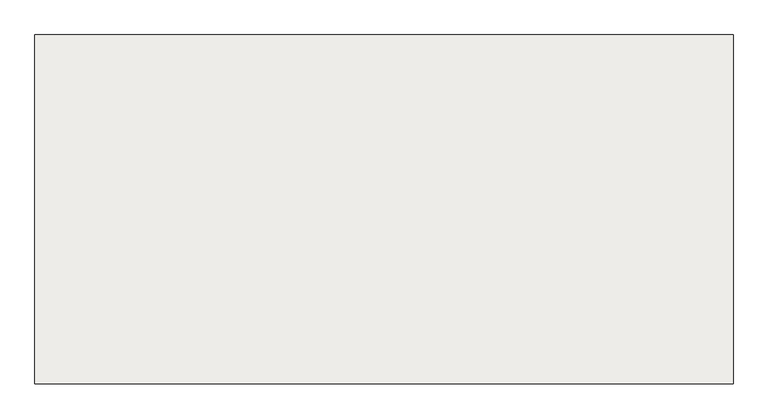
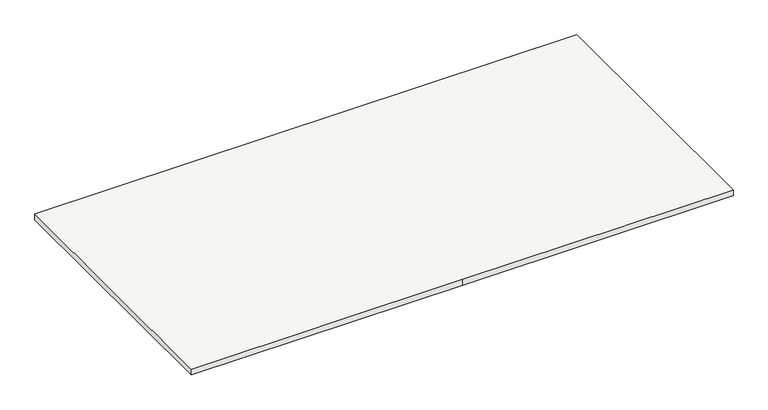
"""IFC4 building model written with IfcOpenShell, lengths in millimetres: slab geometry, Descansillo no monolítico."""

import ifcopenshell
import ifcopenshell.guid

model = None  # the IFC model being written
_history = None  # IfcOwnerHistory: only IFC2X3 demands one
_inside = {}  # id of a spatial element -> (the spatial element, [elements in it])
_under = {}  # id of a project, library or spatial element -> (it, [spatial elements below it])
_declared = {}  # id of a project -> (the project, [libraries it declares])
_typed = {}  # id of a type object -> (the type object, [elements of that type])
_made_of = {}  # id of a material, layer set ... -> (it, [elements and type objects made of it])


def new_model(schema):
    """Start an empty IFC model of exactly this schema.

    Asked for "IFC4X3", IfcOpenShell would pick the latest addendum, in which some entities
    have other attributes; the version numbers below select the first issue.
    IFC2X3 requires an IfcOwnerHistory on every rooted entity: one is made here for all.
    """
    global model, _history
    if schema == "IFC4X3":
        model = ifcopenshell.file(schema_version=(4, 3, 0, 0))
    else:
        model = ifcopenshell.file(schema=schema)
    _inside.clear()
    _under.clear()
    _declared.clear()
    _typed.clear()
    _made_of.clear()
    _history = None
    if model.schema == "IFC2X3":
        org = make("IfcOrganization", Name="unknown")
        user = make(
            "IfcPersonAndOrganization",
            ThePerson=make("IfcPerson", FamilyName="unknown"),
            TheOrganization=org,
        )
        app = make(
            "IfcApplication",
            ApplicationDeveloper=org,
            Version="unknown",
            ApplicationFullName="unknown",
            ApplicationIdentifier="unknown",
        )
        _history = make(
            "IfcOwnerHistory",
            OwningUser=user,
            OwningApplication=app,
            ChangeAction="ADDED",
            CreationDate=0,
        )
    return model


def make(cls, **values):
    """One entity of the class cls with the attributes given. An attribute that is None is left unset."""
    return model.create_entity(
        cls, **{name: value for name, value in values.items() if value is not None}
    )


def rooted(cls, **values):
    """An entity with a GlobalId (a new one), such as an element, a storey or a relation."""
    return make(cls, GlobalId=ifcopenshell.guid.new(), OwnerHistory=_history, **values)


def si_unit(unit_type, name, prefix=None):
    """IfcSIUnit, for example si_unit("LENGTHUNIT", "METRE", prefix="MILLI")."""
    return make("IfcSIUnit", UnitType=unit_type, Prefix=prefix, Name=name)


def assignment(units):
    """IfcUnitAssignment: the units of a project."""
    return None if units is None else make("IfcUnitAssignment", Units=units)


def point(xyz):
    """IfcCartesianPoint."""
    return None if xyz is None else make("IfcCartesianPoint", Coordinates=xyz)


def direction(xyz):
    """IfcDirection."""
    return None if xyz is None else make("IfcDirection", DirectionRatios=xyz)


def frame(location, z_axis=None, x_axis=None):
    """IfcAxis2Placement3D, a coordinate frame: its origin and axes. An axis left out is left unset."""
    return make(
        "IfcAxis2Placement3D",
        Location=point(location),
        Axis=direction(z_axis),
        RefDirection=direction(x_axis),
    )


def origin():
    """The frame at (0, 0, 0) with its axes left unset."""
    return frame((0.0, 0.0, 0.0))


def place(relative_to, where):
    """IfcLocalPlacement: puts the frame where relative to a parent placement (None: the world)."""
    return make(
        "IfcLocalPlacement", PlacementRelTo=relative_to, RelativePlacement=where
    )


def context(
    kind, dimensions, precision=None, world=None, true_north=None, identifier=None
):
    """IfcGeometricRepresentationContext, for example the 3D "Model" context."""
    return make(
        "IfcGeometricRepresentationContext",
        ContextIdentifier=identifier,
        ContextType=kind,
        CoordinateSpaceDimension=dimensions,
        Precision=precision,
        WorldCoordinateSystem=world,
        TrueNorth=true_north,
    )


def project(units=None, contexts=None):
    """IfcProject with its units and contexts."""
    return rooted(
        "IfcProject",
        Name="project",
        RepresentationContexts=contexts,
        UnitsInContext=assignment(units),
    )


def spatial(cls, under=None, at=None, **own):
    """A site, building, storey or space (cls), placed at a placement, below another one or the project."""
    s = rooted(cls, ObjectPlacement=at, **own)
    if under is not None:
        _under.setdefault(under.id(), (under, []))[1].append(s)
    return s


def polyline(points):
    """IfcPolyline through the points."""
    return make("IfcPolyline", Points=[point(p) for p in points])


def outline(outer, holes=None, kind="AREA"):
    """IfcArbitraryClosedProfileDef: a profile drawn as a closed curve; with holes, ...WithVoids."""
    if holes is None:
        return make("IfcArbitraryClosedProfileDef", ProfileType=kind, OuterCurve=outer)
    return make(
        "IfcArbitraryProfileDefWithVoids",
        ProfileType=kind,
        OuterCurve=outer,
        InnerCurves=holes,
    )


def extrude(swept, where, along, depth):
    """IfcExtrudedAreaSolid: the profile swept, set in the frame where, extruded along a direction by depth."""
    return make(
        "IfcExtrudedAreaSolid",
        SweptArea=swept,
        Position=where,
        ExtrudedDirection=direction(along),
        Depth=depth,
    )


def shape(context_of_items, identifier, shape_type, items):
    """IfcShapeRepresentation: the items that make up one representation, for example the "Body"."""
    return make(
        "IfcShapeRepresentation",
        ContextOfItems=context_of_items,
        RepresentationIdentifier=identifier,
        RepresentationType=shape_type,
        Items=items,
    )


def source(mapping_origin, context_of_items, identifier, shape_type, items):
    """IfcRepresentationMap: a shape defined once, which mapped items show again and again."""
    return make(
        "IfcRepresentationMap",
        MappingOrigin=mapping_origin,
        MappedRepresentation=shape(context_of_items, identifier, shape_type, items),
    )


def transform(
    local_origin,
    x_axis=None,
    y_axis=None,
    z_axis=None,
    scale=None,
    scale2=None,
    scale3=None,
    uniform=True,
):
    """IfcCartesianTransformationOperator3D, or its non-uniform kind. x_axis, y_axis, z_axis: its Axis1, 2, 3."""
    if uniform:
        return make(
            "IfcCartesianTransformationOperator3D",
            Axis1=direction(x_axis),
            Axis2=direction(y_axis),
            LocalOrigin=point(local_origin),
            Scale=scale,
            Axis3=direction(z_axis),
        )
    return make(
        "IfcCartesianTransformationOperator3DnonUniform",
        Axis1=direction(x_axis),
        Axis2=direction(y_axis),
        LocalOrigin=point(local_origin),
        Scale=scale,
        Axis3=direction(z_axis),
        Scale2=scale2,
        Scale3=scale3,
    )


def mapped(mapping_source, mapping_target):
    """IfcMappedItem: shows the shape of a source again, moved by a transform."""
    return make(
        "IfcMappedItem", MappingSource=mapping_source, MappingTarget=mapping_target
    )


def made_of(thing, what):
    """Note that an element or type object is made of a material, layer set ...; save() writes the relation."""
    if what is not None:
        _made_of.setdefault(what.id(), (what, []))[1].append(thing)
    return thing


def element(
    cls,
    number,
    at=None,
    inside=None,
    cuts=None,
    type_object=None,
    material=None,
    context=None,
    identifier="Body",
    shape_type=None,
    held_by="IfcProductDefinitionShape",
    body=None,
    shapes=None,
    **own,
):
    """One element of the class cls, such as IfcWall. Its Tag is "e" and its number.

    at: its placement. inside: the storey or other place that contains it. cuts: it is an
    opening in that element (IfcRelVoidsElement). A single representation is given by context,
    identifier, shape_type and body (its items); several are given by shapes. held_by: the class
    of the entity that holds the representations. save() writes the other relations.
    """
    e = rooted(cls, Tag="e%d" % number, ObjectPlacement=at, **own)
    if body is not None:
        shapes = [shape(context, identifier, shape_type, body)]
    if shapes is not None:
        e.Representation = make(held_by, Representations=shapes)
    if inside is not None:
        _inside.setdefault(inside.id(), (inside, []))[1].append(e)
    if cuts is not None:
        rooted(
            "IfcRelVoidsElement", RelatingBuildingElement=cuts, RelatedOpeningElement=e
        )
    if type_object is not None:
        _typed.setdefault(type_object.id(), (type_object, []))[1].append(e)
    return made_of(e, material)


def aggregate(whole, parts):
    """IfcRelAggregates: a whole, such as a stair, and the parts it consists of."""
    return rooted("IfcRelAggregates", RelatingObject=whole, RelatedObjects=parts)


def save(model, path):
    """Write the relations noted so far, then the file.

    IfcRelAggregates (storeys below a building ...), IfcRelContainedInSpatialStructure (elements
    in a storey), IfcRelDefinesByType, IfcRelAssociatesMaterial and IfcRelDeclares: one each for
    every whole, place, type object, material and project.
    """
    for whole, parts in _under.values():
        aggregate(whole, parts)
    for where, things in _inside.values():
        rooted(
            "IfcRelContainedInSpatialStructure",
            RelatedElements=things,
            RelatingStructure=where,
        )
    for kind, things in _typed.values():
        rooted("IfcRelDefinesByType", RelatedObjects=things, RelatingType=kind)
    for what, things in _made_of.values():
        rooted("IfcRelAssociatesMaterial", RelatedObjects=things, RelatingMaterial=what)
    for by, libraries in _declared.values():
        rooted("IfcRelDeclares", RelatingContext=by, RelatedDefinitions=libraries)
    model.write(path)


def slab_f2b46a35(model_context):
    return source(origin(), model_context, "Body", "SweptSolid", [
        extrude(outline(polyline([(-6031.0601801, -5412.6669037), (-6031.0601801, -4512.6669037), (-4231.0601801, -4512.6669037), (-4231.0601801, -5412.6669037), (-5131.0601801, -5412.6669037), (-6031.0601801, -5412.6669037)])), frame((0.0, 0.0, 4773.3333333), z_axis=(0.0, 0.0, 1.0), x_axis=(1.0, 0.0, 0.0)), (0.0, 0.0, 1.0), 20.0),
    ])


if __name__ == "__main__":
    model = new_model("IFC4")
    model_context = context("Model", 3, world=origin())
    ifc_project = project(units=[si_unit("LENGTHUNIT", "METRE", prefix="MILLI")], contexts=[model_context])
    site = spatial("IfcSite", under=ifc_project)
    building = spatial("IfcBuilding", under=site)
    placement = place(None, origin())
    slab_shape = slab_f2b46a35(model_context)
    element("IfcSlab", 1, ObjectType="Descansillo no monolítico", at=placement, inside=building, context=model_context, shape_type="MappedRepresentation", body=[
        mapped(slab_shape, transform((0.0, 0.0, 0.0), x_axis=(1.0, 0.0, 0.0), y_axis=(0.0, 1.0, 0.0), z_axis=(0.0, 0.0, 1.0))),
    ])
    save(model, "model.ifc")
